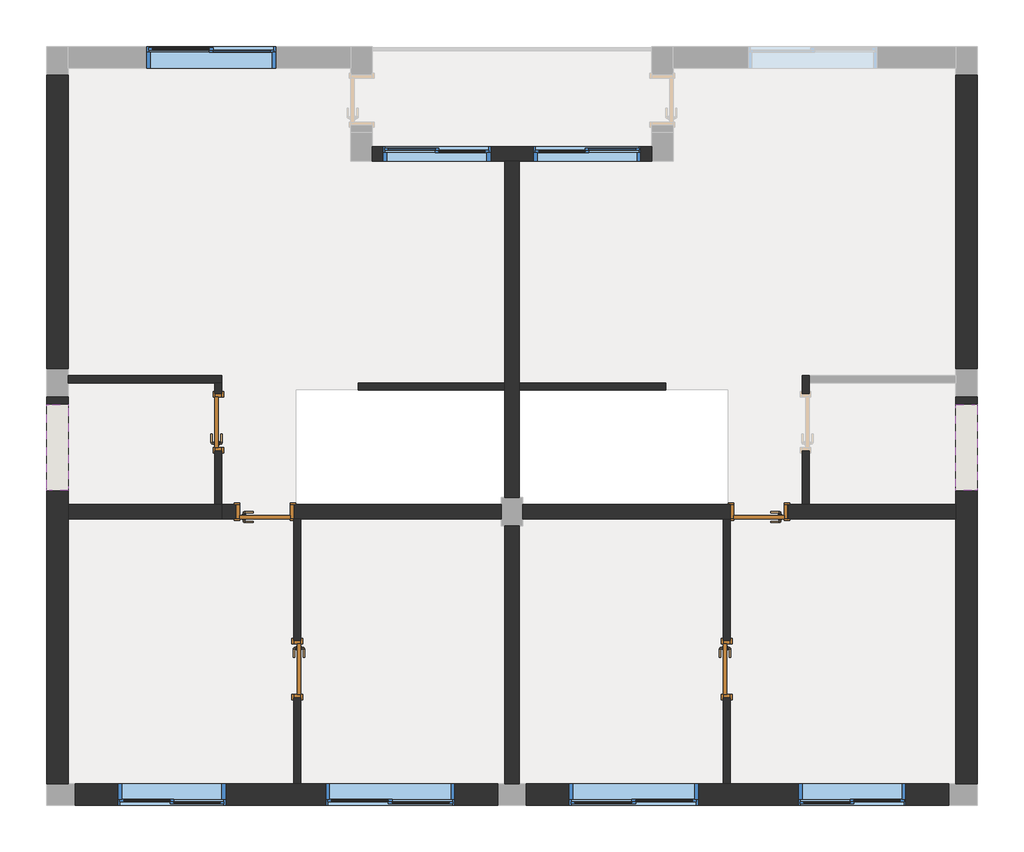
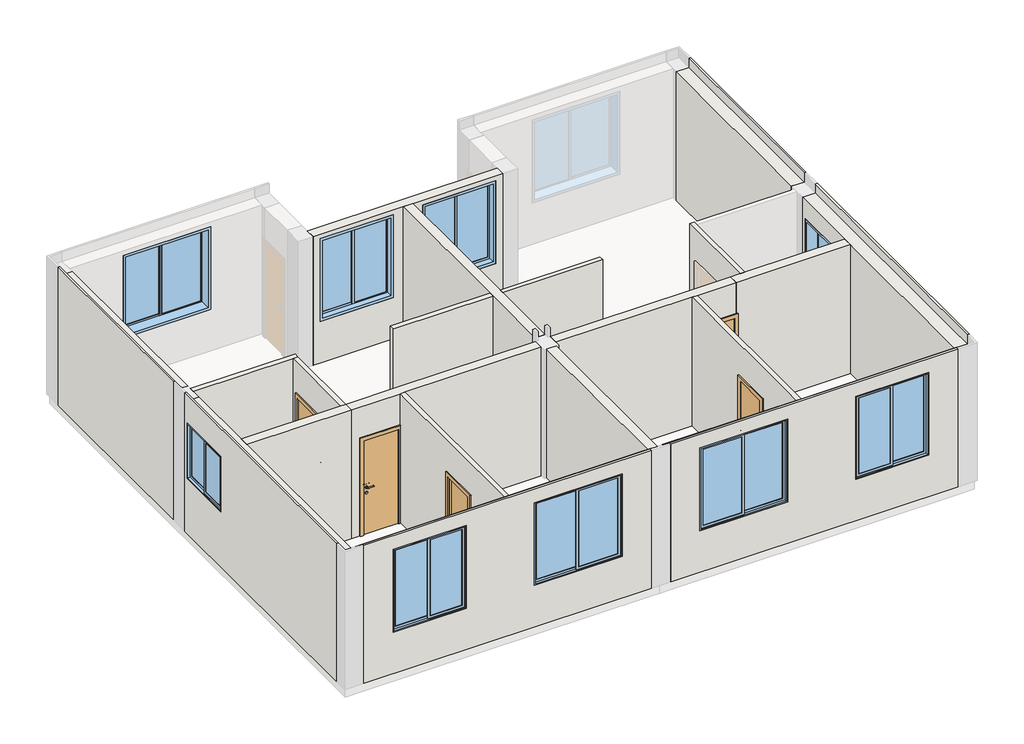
# One storey, part 1 of 2: 15 walls, 9 windows, 5 doors.
"""IFC4 building model written with IfcOpenShell, lengths in millimetres."""

from ifc_helpers import new_model, si_unit, frame, origin, place, context, project, spatial, polyline, outline, extrude, faceted_brep, transform, mapped, element, save
from components import m1_9f206538, m1_5c1b1160, m1_6b3c849d, m1_2dcb8acc, c1_90df00ba, c1_e04ce6eb, c1_7cf9207f, c1_0131cb8c, c3_90035730, c3_8dbe8f69, c5_a65849cb, c5_3e3c06b4

model = new_model("IFC4")

# Units and contexts
model_context = context("Model", 3, world=origin())
ifc_project = project(units=[si_unit("LENGTHUNIT", "METRE", prefix="MILLI")], contexts=[model_context])

# Site, building, storey
site = spatial("IfcSite", under=ifc_project)
building = spatial("IfcBuilding", under=site)
storey = spatial("IfcBuildingStorey", under=building, Name="标高 2", Elevation=3000.0)

# Doors
placement = place(None, origin())
m1_shape = m1_9f206538(model_context)
element("IfcDoor", 1, ObjectType="单嵌板木门 1 : M1", at=placement, inside=storey, context=model_context, shape_type="MappedRepresentation", body=[
    mapped(m1_shape, transform((-5939.5311174, 80.4705333, 3000.0), x_axis=(0.0, 1.0, 0.0), y_axis=(-1.0, 0.0, 0.0), z_axis=(0.0, 0.0, 1.0))),
])
element("IfcDoor", 2, ObjectType="单嵌板木门 1 : M1", at=placement, inside=storey, context=model_context, shape_type="MappedRepresentation", body=[
    mapped(m1_shape, transform((-4839.5311174, -3369.5294667, 3000.0), x_axis=(0.0, -1.0, 0.0), y_axis=(1.0, 0.0, 0.0), z_axis=(0.0, 0.0, 1.0))),
])
m1_2_shape = m1_5c1b1160(model_context)
element("IfcDoor", 3, ObjectType="单嵌板木门 1 : M1", at=placement, inside=storey, context=model_context, shape_type="MappedRepresentation", body=[
    mapped(m1_2_shape, transform((1160.4688826, -3369.5294667, 3000.0), x_axis=(0.0, -1.0, 0.0), y_axis=(1.0, 0.0, 0.0), z_axis=(0.0, 0.0, 1.0))),
])
m1_3_shape = m1_6b3c849d(model_context)
element("IfcDoor", 4, ObjectType="单嵌板木门 1 : M1", at=placement, inside=storey, context=model_context, shape_type="MappedRepresentation", body=[
    mapped(m1_3_shape, transform((-5289.5311174, -1169.5294667, 3000.0), x_axis=(1.0, 0.0, 0.0), y_axis=(0.0, 1.0, 0.0), z_axis=(0.0, 0.0, 1.0))),
])
m1_4_shape = m1_2dcb8acc(model_context)
element("IfcDoor", 5, ObjectType="单嵌板木门 1 : M1", at=placement, inside=storey, context=model_context, shape_type="MappedRepresentation", body=[
    mapped(m1_4_shape, transform((1610.4688826, -1169.5294667, 3000.0), x_axis=(-1.0, 0.0, 0.0), y_axis=(0.0, -1.0, 0.0), z_axis=(0.0, 0.0, 1.0))),
])

# Walls
element("IfcWall", 6, ObjectType="300外墙", at=placement, inside=storey, context=model_context, shape_type="Brep", body=[
    faceted_brep([(-2039.5311174, -4969.5294667, 3000.0), (-4789.5311174, -4969.5294667, 3000.0), (-4889.5311174, -4969.5294667, 3000.0), (-7939.5311174, -4969.5294667, 3000.0), (-7939.5311174, -4969.5294667, 5800.0), (-4889.5311174, -4969.5294667, 5800.0), (-4789.5311174, -4969.5294667, 5800.0), (-2039.5311174, -4969.5294667, 5800.0), (-7339.5311174, -4969.5294667, 5700.0), (-7339.5311174, -4969.5294667, 3900.0), (-5839.5311174, -4969.5294667, 3900.0), (-5839.5311174, -4969.5294667, 5700.0), (-4439.5311174, -4969.5294667, 5700.0), (-4439.5311174, -4969.5294667, 3900.0), (-2639.5311174, -4969.5294667, 3900.0), (-2639.5311174, -4969.5294667, 5700.0), (-7939.5311174, -5269.5294667, 6000.0), (-7939.5311174, -5269.5294667, 3000.0), (-2039.5311174, -5269.5294667, 3000.0), (-2039.5311174, -5269.5294667, 6000.0), (-7339.5311174, -5269.5294667, 3900.0), (-7339.5311174, -5269.5294667, 5700.0), (-5839.5311174, -5269.5294667, 5700.0), (-5839.5311174, -5269.5294667, 3900.0), (-4439.5311174, -5269.5294667, 3900.0), (-4439.5311174, -5269.5294667, 5700.0), (-2639.5311174, -5269.5294667, 5700.0), (-2639.5311174, -5269.5294667, 3900.0), (-2039.5311174, -5229.5294667, 6000.0), (-7939.5311174, -5229.5294667, 6000.0), (-7939.5311174, -5229.5294667, 5800.0), (-2039.5311174, -5229.5294667, 5800.0)], [[[0, 1, 2, 3, 4, 5, 6, 7], [8, 9, 10, 11], [12, 13, 14, 15]], [[16, 17, 18, 19], [20, 21, 22, 23], [24, 25, 26, 27]], [[17, 3, 2, 1, 0, 18]], [[16, 19, 28, 29]], [[17, 16, 29, 30, 4, 3]], [[19, 18, 0, 7, 31, 28]], [[9, 8, 21, 20]], [[10, 9, 20, 23]], [[11, 10, 23, 22]], [[8, 11, 22, 21]], [[13, 12, 25, 24]], [[14, 13, 24, 27]], [[15, 14, 27, 26]], [[12, 15, 26, 25]], [[30, 31, 7, 6, 5, 4]], [[31, 30, 29, 28]]]),
])
element("IfcWall", 7, ObjectType="300外墙", at=placement, inside=storey, context=model_context, shape_type="Brep", body=[
    faceted_brep([(-8039.5311174, 830.4705333, 3000.0), (-8039.5311174, 4930.4705333, 3000.0), (-8039.5311174, 4930.4705333, 5800.0), (-8039.5311174, 830.4705333, 5800.0), (-8339.5311174, 4930.4705333, 6000.0), (-8339.5311174, 4930.4705333, 3000.0), (-8339.5311174, 4130.4705333, 3000.0), (-8339.5311174, 830.4705333, 3000.0), (-8339.5311174, 830.4705333, 6000.0), (-8299.5311174, 4930.4705333, 6000.0), (-8299.5311174, 4930.4705333, 5800.0), (-8299.5311174, 830.4705333, 6000.0), (-8299.5311174, 830.4705333, 5800.0)], [[[0, 1, 2, 3]], [[4, 5, 6, 7, 8]], [[5, 1, 0, 7, 6]], [[5, 4, 9, 10, 2, 1]], [[4, 8, 11, 9]], [[8, 7, 0, 3, 12, 11]], [[10, 12, 3, 2]], [[12, 10, 9, 11]]]),
    faceted_brep([(-8039.5311174, -4969.5294667, 3000.0), (-8039.5311174, -1269.5294667, 3000.0), (-8039.5311174, -1069.5294667, 3000.0), (-8039.5311174, 430.4705333, 3000.0), (-8039.5311174, 430.4705333, 5800.0), (-8039.5311174, -1069.5294667, 5800.0), (-8039.5311174, -1269.5294667, 5800.0), (-8039.5311174, -4969.5294667, 5800.0), (-8039.5311174, 330.4705333, 5400.0), (-8039.5311174, 330.4705333, 4200.0), (-8039.5311174, -869.5294667, 4200.0), (-8039.5311174, -869.5294667, 5400.0), (-8339.5311174, -4969.5294667, 6000.0), (-8339.5311174, 430.4705333, 6000.0), (-8339.5311174, 430.4705333, 3000.0), (-8339.5311174, -4969.5294667, 3000.0), (-8339.5311174, 330.4705333, 4200.0), (-8339.5311174, 330.4705333, 5400.0), (-8339.5311174, -869.5294667, 5400.0), (-8339.5311174, -869.5294667, 4200.0), (-8299.5311174, -4969.5294667, 3000.0), (-8299.5311174, -4969.5294667, 6000.0), (-8299.5311174, 430.4705333, 6000.0), (-8299.5311174, 430.4705333, 5800.0), (-8299.5311174, -4969.5294667, 5800.0)], [[[0, 1, 2, 3, 4, 5, 6, 7], [8, 9, 10, 11]], [[12, 13, 14, 15], [16, 17, 18, 19]], [[0, 20, 15, 14, 3, 2, 1]], [[13, 12, 21, 22]], [[9, 8, 17, 16]], [[10, 9, 16, 19]], [[11, 10, 19, 18]], [[8, 11, 18, 17]], [[14, 13, 22, 23, 4, 3]], [[15, 20, 0, 7, 24, 21, 12]], [[23, 24, 7, 6, 5, 4]], [[24, 23, 22, 21]]]),
])
element("IfcWall", 8, ObjectType="300外墙", at=placement, inside=storey, context=model_context, shape_type="Brep", body=[
    faceted_brep([(-1639.5311174, -5269.5294667, 6000.0), (-1639.5311174, -5269.5294667, 3000.0), (4260.4688826, -5269.5294667, 3000.0), (4260.4688826, -5269.5294667, 6000.0), (760.4688826, -5269.5294667, 5700.0), (760.4688826, -5269.5294667, 3900.0), (-1039.5311174, -5269.5294667, 3900.0), (-1039.5311174, -5269.5294667, 5700.0), (3660.4688826, -5269.5294667, 5700.0), (3660.4688826, -5269.5294667, 3900.0), (2160.4688826, -5269.5294667, 3900.0), (2160.4688826, -5269.5294667, 5700.0), (4260.4688826, -4969.5294667, 3000.0), (1210.4688826, -4969.5294667, 3000.0), (1110.4688826, -4969.5294667, 3000.0), (-1639.5311174, -4969.5294667, 3000.0), (-1639.5311174, -4969.5294667, 5800.0), (1110.4688826, -4969.5294667, 5800.0), (1210.4688826, -4969.5294667, 5800.0), (4260.4688826, -4969.5294667, 5800.0), (760.4688826, -4969.5294667, 3900.0), (760.4688826, -4969.5294667, 5700.0), (-1039.5311174, -4969.5294667, 5700.0), (-1039.5311174, -4969.5294667, 3900.0), (3660.4688826, -4969.5294667, 3900.0), (3660.4688826, -4969.5294667, 5700.0), (2160.4688826, -4969.5294667, 5700.0), (2160.4688826, -4969.5294667, 3900.0), (4260.4688826, -5229.5294667, 6000.0), (-1639.5311174, -5229.5294667, 6000.0), (-1639.5311174, -5229.5294667, 5800.0), (4260.4688826, -5229.5294667, 5800.0)], [[[0, 1, 2, 3], [4, 5, 6, 7], [8, 9, 10, 11]], [[12, 13, 14, 15, 16, 17, 18, 19], [20, 21, 22, 23], [24, 25, 26, 27]], [[1, 15, 14, 13, 12, 2]], [[0, 3, 28, 29]], [[1, 0, 29, 30, 16, 15]], [[3, 2, 12, 19, 31, 28]], [[5, 4, 21, 20]], [[6, 5, 20, 23]], [[7, 6, 23, 22]], [[4, 7, 22, 21]], [[9, 8, 25, 24]], [[10, 9, 24, 27]], [[11, 10, 27, 26]], [[8, 11, 26, 25]], [[30, 31, 19, 18, 17, 16]], [[31, 30, 29, 28]]]),
])
element("IfcWall", 9, ObjectType="300外墙", at=placement, inside=storey, context=model_context, shape_type="Brep", body=[
    faceted_brep([(4660.4688826, 4930.4705333, 3000.0), (4660.4688826, 4930.4705333, 6000.0), (4660.4688826, 830.4705333, 6000.0), (4660.4688826, 830.4705333, 3000.0), (4660.4688826, 4130.4705333, 3000.0), (4360.4688826, 4930.4705333, 3000.0), (4360.4688826, 830.4705333, 3000.0), (4360.4688826, 830.4705333, 5800.0), (4360.4688826, 4930.4705333, 5800.0), (4620.4688826, 4930.4705333, 5800.0), (4620.4688826, 4930.4705333, 6000.0), (4620.4688826, 830.4705333, 6000.0), (4620.4688826, 830.4705333, 5800.0)], [[[0, 1, 2, 3, 4]], [[5, 6, 7, 8]], [[5, 0, 4, 3, 6]], [[1, 0, 5, 8, 9, 10]], [[2, 1, 10, 11]], [[3, 2, 11, 12, 7, 6]], [[12, 9, 8, 7]], [[9, 12, 11, 10]]]),
    faceted_brep([(4660.4688826, 430.4705333, 6000.0), (4660.4688826, -4969.5294667, 6000.0), (4660.4688826, -4969.5294667, 3000.0), (4660.4688826, 430.4705333, 3000.0), (4660.4688826, 330.4705333, 5400.0), (4660.4688826, 330.4705333, 4200.0), (4660.4688826, -869.5294667, 4200.0), (4660.4688826, -869.5294667, 5400.0), (4360.4688826, 430.4705333, 3000.0), (4360.4688826, -1069.5294667, 3000.0), (4360.4688826, -1269.5294667, 3000.0), (4360.4688826, -4969.5294667, 3000.0), (4360.4688826, -4969.5294667, 5800.0), (4360.4688826, -1269.5294667, 5800.0), (4360.4688826, -1069.5294667, 5800.0), (4360.4688826, 430.4705333, 5800.0), (4360.4688826, 330.4705333, 4200.0), (4360.4688826, 330.4705333, 5400.0), (4360.4688826, -869.5294667, 5400.0), (4360.4688826, -869.5294667, 4200.0), (4620.4688826, -4969.5294667, 3000.0), (4620.4688826, 430.4705333, 6000.0), (4620.4688826, -4969.5294667, 6000.0), (4620.4688826, 430.4705333, 5800.0), (4620.4688826, -4969.5294667, 5800.0)], [[[0, 1, 2, 3], [4, 5, 6, 7]], [[8, 9, 10, 11, 12, 13, 14, 15], [16, 17, 18, 19]], [[2, 20, 11, 10, 9, 8, 3]], [[1, 0, 21, 22]], [[5, 4, 17, 16]], [[6, 5, 16, 19]], [[7, 6, 19, 18]], [[4, 7, 18, 17]], [[0, 3, 8, 15, 23, 21]], [[11, 20, 2, 1, 22, 24, 12]], [[24, 23, 15, 14, 13, 12]], [[23, 24, 22, 21]]]),
])
element("IfcWall", 10, ObjectType="200内墙", at=placement, inside=storey, context=model_context, shape_type="Brep", body=[
    faceted_brep([(-1739.5311174, -4969.5294667, 3000.0), (-1739.5311174, -1369.5294667, 3000.0), (-1739.5311174, -1369.5294667, 5800.0), (-1739.5311174, -4969.5294667, 5800.0), (-1939.5311174, -1369.5294667, 3000.0), (-1939.5311174, -4969.5294667, 3000.0), (-1939.5311174, -4969.5294667, 5800.0), (-1939.5311174, -1369.5294667, 5800.0)], [[[0, 1, 2, 3]], [[4, 5, 6, 7]], [[0, 5, 4, 1]], [[1, 4, 7, 2]], [[5, 0, 3, 6]], [[3, 2, 7, 6]]]),
    faceted_brep([(-1739.5311174, -969.5294667, 3000.0), (-1739.5311174, 530.4705333, 3000.0), (-1739.5311174, 630.4705333, 3000.0), (-1739.5311174, 3730.4705333, 3000.0), (-1739.5311174, 3730.4705333, 5800.0), (-1739.5311174, 630.4705333, 5800.0), (-1739.5311174, 530.4705333, 5800.0), (-1739.5311174, -969.5294667, 5800.0), (-1939.5311174, 3730.4705333, 3000.0), (-1939.5311174, 630.4705333, 3000.0), (-1939.5311174, 530.4705333, 3000.0), (-1939.5311174, -969.5294667, 3000.0), (-1939.5311174, -969.5294667, 5800.0), (-1939.5311174, 530.4705333, 5800.0), (-1939.5311174, 630.4705333, 5800.0), (-1939.5311174, 3730.4705333, 5800.0)], [[[0, 1, 2, 3, 4, 5, 6, 7]], [[8, 9, 10, 11, 12, 13, 14, 15]], [[3, 2, 1, 0, 11, 10, 9, 8]], [[11, 0, 7, 12]], [[3, 8, 15, 4]], [[7, 6, 5, 4, 15, 14, 13, 12]]]),
])
element("IfcWall", 11, ObjectType="200内墙", at=placement, inside=storey, context=model_context, shape_type="Brep", body=[
    faceted_brep([(-8039.5311174, -1269.5294667, 3000.0), (-5889.5311174, -1269.5294667, 3000.0), (-5889.5311174, -1269.5294667, 5800.0), (-8039.5311174, -1269.5294667, 5800.0), (-5889.5311174, -1069.5294667, 3000.0), (-5989.5311174, -1069.5294667, 3000.0), (-8039.5311174, -1069.5294667, 3000.0), (-8039.5311174, -1069.5294667, 5800.0), (-5989.5311174, -1069.5294667, 5800.0), (-5889.5311174, -1069.5294667, 5800.0)], [[[0, 1, 2, 3]], [[4, 5, 6, 7, 8, 9]], [[1, 0, 6, 5, 4]], [[6, 0, 3, 7]], [[1, 4, 9, 2]], [[3, 2, 9, 8, 7]]]),
])
element("IfcWall", 12, ObjectType="100内墙", at=placement, inside=storey, context=model_context, shape_type="Brep", body=[
    faceted_brep([(-8039.5311174, 630.4705333, 3000.0), (-5989.5311174, 630.4705333, 3000.0), (-5889.5311174, 630.4705333, 3000.0), (-5889.5311174, 630.4705333, 5800.0), (-5989.5311174, 630.4705333, 5800.0), (-8039.5311174, 630.4705333, 5800.0), (-5889.5311174, 730.4705333, 3000.0), (-8039.5311174, 730.4705333, 3000.0), (-8039.5311174, 730.4705333, 5800.0), (-5889.5311174, 730.4705333, 5800.0)], [[[0, 1, 2, 3, 4, 5]], [[6, 7, 8, 9]], [[2, 1, 0, 7, 6]], [[7, 0, 5, 8]], [[2, 6, 9, 3]], [[5, 4, 3, 9, 8]]]),
])
element("IfcWall", 13, ObjectType="100内墙", at=placement, inside=storey, context=model_context, shape_type="SweptSolid", body=[
    extrude(outline(polyline([(630.4705333, 3000.0), (480.4705333, 3000.0), (480.4705333, 5100.0), (-319.5294667, 5100.0), (-319.5294667, 3000.0), (-1069.5294667, 3000.0), (-1069.5294667, 5800.0), (630.4705333, 5800.0), (630.4705333, 3000.0)])), frame((-5989.5311174, 0.0, 0.0), z_axis=(1.0, 0.0, 0.0), x_axis=(0.0, 1.0, 0.0)), (0.0, 0.0, 1.0), 100.0),
])
element("IfcWall", 14, ObjectType="100内墙", at=placement, inside=storey, context=model_context, shape_type="Brep", body=[
    faceted_brep([(2210.4688826, 730.4705333, 3000.0), (2210.4688826, 480.4705333, 3000.0), (2210.4688826, 480.4705333, 5100.0), (2210.4688826, -319.5294667, 5100.0), (2210.4688826, -319.5294667, 3000.0), (2210.4688826, -1069.5294667, 3000.0), (2210.4688826, -1069.5294667, 5800.0), (2210.4688826, 730.4705333, 5800.0), (2310.4688826, 480.4705333, 3000.0), (2310.4688826, 630.4705333, 3000.0), (2310.4688826, 730.4705333, 3000.0), (2310.4688826, 730.4705333, 5800.0), (2310.4688826, -1069.5294667, 5800.0), (2310.4688826, -1069.5294667, 3000.0), (2310.4688826, -319.5294667, 3000.0), (2310.4688826, -319.5294667, 5100.0), (2310.4688826, 480.4705333, 5100.0)], [[[0, 1, 2, 3, 4, 5, 6, 7]], [[8, 9, 10, 11, 12, 13, 14, 15, 16]], [[0, 10, 9, 8, 1]], [[5, 4, 14, 13]], [[10, 0, 7, 11]], [[16, 2, 1, 8]], [[2, 16, 15, 3]], [[3, 15, 14, 4]], [[5, 13, 12, 6]], [[7, 6, 12, 11]]]),
])
element("IfcWall", 15, ObjectType="100内墙", at=placement, inside=storey, context=model_context, shape_type="SweptSolid", body=[
    extrude(outline(polyline([(310.4688826, 630.4705333), (310.4688826, 530.4705333), (-1739.5311174, 530.4705333), (-1739.5311174, 630.4705333), (310.4688826, 630.4705333)])), frame((0.0, 0.0, 3000.0), z_axis=(0.0, 0.0, 1.0), x_axis=(1.0, 0.0, 0.0)), (0.0, 0.0, 1.0), 2800.0),
    extrude(outline(polyline([(-3989.5311174, 530.4705333), (-3989.5311174, 630.4705333), (-1939.5311174, 630.4705333), (-1939.5311174, 530.4705333), (-3989.5311174, 530.4705333)])), frame((0.0, 0.0, 3000.0), z_axis=(0.0, 0.0, 1.0), x_axis=(1.0, 0.0, 0.0)), (0.0, 0.0, 1.0), 2800.0),
])
element("IfcWall", 16, ObjectType="200内墙", at=placement, inside=storey, context=model_context, shape_type="Brep", body=[
    faceted_brep([(-5889.5311174, -1269.5294667, 3000.0), (-5689.5311174, -1269.5294667, 3000.0), (-5689.5311174, -1269.5294667, 5100.0), (-4889.5311174, -1269.5294667, 5100.0), (-4889.5311174, -1269.5294667, 3000.0), (-4789.5311174, -1269.5294667, 3000.0), (-1989.5311174, -1269.5294667, 3000.0), (-1989.5311174, -1269.5294667, 5800.0), (-4789.5311174, -1269.5294667, 5800.0), (-4889.5311174, -1269.5294667, 5800.0), (-5889.5311174, -1269.5294667, 5800.0), (-5689.5311174, -1069.5294667, 3000.0), (-5889.5311174, -1069.5294667, 3000.0), (-5889.5311174, -1069.5294667, 5800.0), (-4854.5311174, -1069.5294667, 5800.0), (-1989.5311174, -1069.5294667, 5800.0), (-1989.5311174, -1069.5294667, 3000.0), (-4889.5311174, -1069.5294667, 3000.0), (-4889.5311174, -1069.5294667, 5100.0), (-5689.5311174, -1069.5294667, 5100.0)], [[[0, 1, 2, 3, 4, 5, 6, 7, 8, 9, 10]], [[11, 12, 13, 14, 15, 16, 17, 18, 19]], [[16, 6, 5, 4, 17]], [[0, 12, 11, 1]], [[6, 16, 15, 7]], [[12, 0, 10, 13]], [[3, 18, 17, 4]], [[18, 3, 2, 19]], [[19, 2, 1, 11]], [[10, 9, 8, 7, 15, 14, 13]]]),
    faceted_brep([(2010.4688826, -1269.5294667, 3000.0), (2011.6762306, -1269.5294667, 3000.0), (2011.6762306, -1269.5294667, 5800.0), (1210.4688826, -1269.5294667, 5800.0), (1110.4688826, -1269.5294667, 5800.0), (-1689.5311174, -1269.5294667, 5800.0), (-1689.5311174, -1269.5294667, 3000.0), (1110.4688826, -1269.5294667, 3000.0), (1210.4688826, -1269.5294667, 3000.0), (1210.4688826, -1269.5294667, 5100.0), (2010.4688826, -1269.5294667, 5100.0), (2011.6762306, -1069.5294667, 3000.0), (2010.4688826, -1069.5294667, 3000.0), (2010.4688826, -1069.5294667, 5100.0), (1210.4688826, -1069.5294667, 5100.0), (1210.4688826, -1069.5294667, 3000.0), (-1689.5311174, -1069.5294667, 3000.0), (-1689.5311174, -1069.5294667, 5800.0), (1175.4688826, -1069.5294667, 5800.0), (2011.6762306, -1069.5294667, 5800.0)], [[[0, 1, 2, 3, 4, 5, 6, 7, 8, 9, 10]], [[11, 12, 13, 14, 15, 16, 17, 18, 19]], [[11, 1, 0, 12]], [[6, 16, 15, 8, 7]], [[1, 11, 19, 2]], [[16, 6, 5, 17]], [[14, 9, 8, 15]], [[9, 14, 13, 10]], [[10, 13, 12, 0]], [[5, 4, 3, 2, 19, 18, 17]]]),
])
element("IfcWall", 17, ObjectType="200内墙", at=placement, inside=storey, context=model_context, shape_type="Brep", body=[
    faceted_brep([(2011.6762306, -1269.5294667, 3000.0), (4360.4688826, -1269.5294667, 3000.0), (4360.4688826, -1269.5294667, 5800.0), (2011.6762306, -1269.5294667, 5800.0), (4360.4688826, -1069.5294667, 3000.0), (2310.4688826, -1069.5294667, 3000.0), (2210.4688826, -1069.5294667, 3000.0), (2011.6762306, -1069.5294667, 3000.0), (2011.6762306, -1069.5294667, 5800.0), (2210.4688826, -1069.5294667, 5800.0), (2310.4688826, -1069.5294667, 5800.0), (4360.4688826, -1069.5294667, 5800.0)], [[[0, 1, 2, 3]], [[4, 5, 6, 7, 8, 9, 10, 11]], [[1, 0, 7, 6, 5, 4]], [[7, 0, 3, 8]], [[1, 4, 11, 2]], [[3, 2, 11, 10, 9, 8]]]),
])
element("IfcWall", 18, ObjectType="200内墙", at=placement, inside=storey, context=model_context, shape_type="Brep", body=[
    faceted_brep([(-3789.5311174, 3730.4705333, 3000.0), (-1939.5311174, 3730.4705333, 3000.0), (-1739.5311174, 3730.4705333, 3000.0), (110.4688826, 3730.4705333, 3000.0), (110.4688826, 3730.4705333, 5800.0), (-1739.5311174, 3730.4705333, 5800.0), (-1939.5311174, 3730.4705333, 5800.0), (-3789.5311174, 3730.4705333, 5800.0), (-2139.5311174, 3730.4705333, 5700.0), (-2139.5311174, 3730.4705333, 3900.0), (-3639.5311174, 3730.4705333, 3900.0), (-3639.5311174, 3730.4705333, 5700.0), (-1539.5311174, 3730.4705333, 3900.0), (-1539.5311174, 3730.4705333, 5700.0), (-39.5311174, 3730.4705333, 5700.0), (-39.5311174, 3730.4705333, 3900.0), (110.4688826, 3930.4705333, 3000.0), (-3789.5311174, 3930.4705333, 3000.0), (-3789.5311174, 3930.4705333, 5800.0), (110.4688826, 3930.4705333, 5800.0), (-2139.5311174, 3930.4705333, 3900.0), (-2139.5311174, 3930.4705333, 5700.0), (-3639.5311174, 3930.4705333, 5700.0), (-3639.5311174, 3930.4705333, 3900.0), (-1539.5311174, 3930.4705333, 5700.0), (-1539.5311174, 3930.4705333, 3900.0), (-39.5311174, 3930.4705333, 3900.0), (-39.5311174, 3930.4705333, 5700.0)], [[[0, 1, 2, 3, 4, 5, 6, 7], [8, 9, 10, 11], [12, 13, 14, 15]], [[16, 17, 18, 19], [20, 21, 22, 23], [24, 25, 26, 27]], [[3, 2, 1, 0, 17, 16]], [[3, 16, 19, 4]], [[17, 0, 7, 18]], [[9, 8, 21, 20]], [[10, 9, 20, 23]], [[11, 10, 23, 22]], [[8, 11, 22, 21]], [[25, 24, 13, 12]], [[26, 25, 12, 15]], [[27, 26, 15, 14]], [[24, 27, 14, 13]], [[7, 6, 5, 4, 19, 18]]]),
])
element("IfcWall", 19, ObjectType="100内墙", at=placement, inside=storey, context=model_context, shape_type="Brep", body=[
    faceted_brep([(-4789.5311174, -4969.5294667, 3000.0), (-4789.5311174, -3769.5294667, 3000.0), (-4789.5311174, -3769.5294667, 5100.0), (-4789.5311174, -2969.5294667, 5100.0), (-4789.5311174, -2969.5294667, 3000.0), (-4789.5311174, -1269.5294667, 3000.0), (-4789.5311174, -1269.5294667, 5800.0), (-4789.5311174, -4969.5294667, 5800.0), (-4889.5311174, -3769.5294667, 3000.0), (-4889.5311174, -4969.5294667, 3000.0), (-4889.5311174, -4969.5294667, 5800.0), (-4889.5311174, -1269.5294667, 5800.0), (-4889.5311174, -1269.5294667, 5100.0), (-4889.5311174, -1269.5294667, 3000.0), (-4889.5311174, -2969.5294667, 3000.0), (-4889.5311174, -2969.5294667, 5100.0), (-4889.5311174, -3769.5294667, 5100.0)], [[[0, 1, 2, 3, 4, 5, 6, 7]], [[8, 9, 10, 11, 12, 13, 14, 15, 16]], [[0, 9, 8, 1]], [[13, 5, 4, 14]], [[5, 13, 12, 11, 6]], [[9, 0, 7, 10]], [[16, 2, 1, 8]], [[2, 16, 15, 3]], [[3, 15, 14, 4]], [[7, 6, 11, 10]]]),
])
element("IfcWall", 20, ObjectType="100内墙", at=placement, inside=storey, context=model_context, shape_type="Brep", body=[
    faceted_brep([(1210.4688826, -4969.5294667, 3000.0), (1210.4688826, -3769.5294667, 3000.0), (1210.4688826, -3769.5294667, 5100.0), (1210.4688826, -2969.5294667, 5100.0), (1210.4688826, -2969.5294667, 3000.0), (1210.4688826, -1269.5294667, 3000.0), (1210.4688826, -1269.5294667, 5100.0), (1210.4688826, -1269.5294667, 5800.0), (1210.4688826, -4969.5294667, 5800.0), (1110.4688826, -3769.5294667, 3000.0), (1110.4688826, -4969.5294667, 3000.0), (1110.4688826, -4969.5294667, 5800.0), (1110.4688826, -1269.5294667, 5800.0), (1110.4688826, -1269.5294667, 3000.0), (1110.4688826, -2969.5294667, 3000.0), (1110.4688826, -2969.5294667, 5100.0), (1110.4688826, -3769.5294667, 5100.0)], [[[0, 1, 2, 3, 4, 5, 6, 7, 8]], [[9, 10, 11, 12, 13, 14, 15, 16]], [[0, 10, 9, 1]], [[13, 5, 4, 14]], [[10, 0, 8, 11]], [[5, 13, 12, 7, 6]], [[16, 2, 1, 9]], [[2, 16, 15, 3]], [[3, 15, 14, 4]], [[8, 7, 12, 11]]]),
])

# Windows
c1_shape = c1_90df00ba(model_context)
element("IfcWindow", 21, ObjectType="推拉窗6 : C1", at=placement, inside=storey, context=model_context, shape_type="MappedRepresentation", body=[
    mapped(c1_shape, transform((-6580.0061174, -5186.4029042, 3000.0), x_axis=(-1.0, 0.0, 0.0), y_axis=(0.0, -1.0, 0.0), z_axis=(0.0, 0.0, 1.0))),
])
c1_2_shape = c1_e04ce6eb(model_context)
element("IfcWindow", 22, ObjectType="推拉窗6 : C1", at=placement, inside=storey, context=model_context, shape_type="MappedRepresentation", body=[
    mapped(c1_2_shape, transform((2900.9438826, -5186.4029042, 3000.0), x_axis=(1.0, 0.0, 0.0), y_axis=(0.0, 1.0, 0.0), z_axis=(0.0, 0.0, 1.0))),
])
c1_3_shape = c1_7cf9207f(model_context)
element("IfcWindow", 23, ObjectType="推拉窗6 : C1", at=placement, inside=storey, context=model_context, shape_type="MappedRepresentation", body=[
    mapped(c1_3_shape, transform((-2899.0561174, 3897.3439708, 3000.0), x_axis=(1.0, 0.0, 0.0), y_axis=(0.0, 1.0, 0.0), z_axis=(0.0, 0.0, 1.0))),
])
c1_4_shape = c1_0131cb8c(model_context)
element("IfcWindow", 24, ObjectType="推拉窗6 : C1", at=placement, inside=storey, context=model_context, shape_type="MappedRepresentation", body=[
    mapped(c1_4_shape, transform((-780.0061174, 3897.3439708, 3000.0), x_axis=(-1.0, 0.0, 0.0), y_axis=(0.0, -1.0, 0.0), z_axis=(0.0, 0.0, 1.0))),
])
c3_shape = c3_90035730(model_context)
element("IfcWindow", 25, ObjectType="推拉窗6 : C3", at=placement, inside=storey, context=model_context, shape_type="MappedRepresentation", body=[
    mapped(c3_shape, transform((-6049.0561174, 5247.3439708, 3000.0), x_axis=(1.0, 0.0, 0.0), y_axis=(0.0, 1.0, 0.0), z_axis=(0.0, 0.0, 1.0))),
])
element("IfcWindow", 26, ObjectType="推拉窗6 : C3", at=placement, inside=storey, context=model_context, shape_type="MappedRepresentation", body=[
    mapped(c3_shape, transform((-3530.0061174, -5186.4029042, 3000.0), x_axis=(-1.0, 0.0, 0.0), y_axis=(0.0, -1.0, 0.0), z_axis=(0.0, 0.0, 1.0))),
])
c3_2_shape = c3_8dbe8f69(model_context)
element("IfcWindow", 27, ObjectType="推拉窗6 : C3", at=placement, inside=storey, context=model_context, shape_type="MappedRepresentation", body=[
    mapped(c3_2_shape, transform((-149.0561174, -5186.4029042, 3000.0), x_axis=(1.0, 0.0, 0.0), y_axis=(0.0, 1.0, 0.0), z_axis=(0.0, 0.0, 1.0))),
])
c5_shape = c5_a65849cb(model_context)
element("IfcWindow", 28, ObjectType="推拉窗6 : C5", at=placement, inside=storey, context=model_context, shape_type="MappedRepresentation", body=[
    mapped(c5_shape, transform((-8256.4045549, -279.0544667, 3300.0), x_axis=(0.0, 1.0, 0.0), y_axis=(-1.0, 0.0, 0.0), z_axis=(0.0, 0.0, 1.0))),
])
c5_2_shape = c5_3e3c06b4(model_context)
element("IfcWindow", 29, ObjectType="推拉窗6 : C5", at=placement, inside=storey, context=model_context, shape_type="MappedRepresentation", body=[
    mapped(c5_2_shape, transform((4577.3423201, -279.0544667, 3300.0), x_axis=(0.0, 1.0, 0.0), y_axis=(-1.0, 0.0, 0.0), z_axis=(0.0, 0.0, 1.0))),
])

save(model, "model.ifc")
